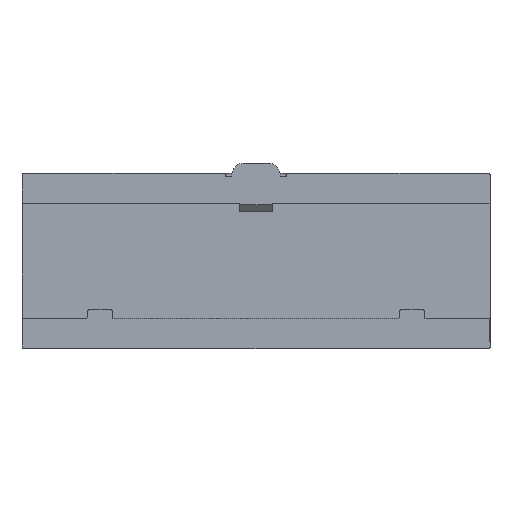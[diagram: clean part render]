
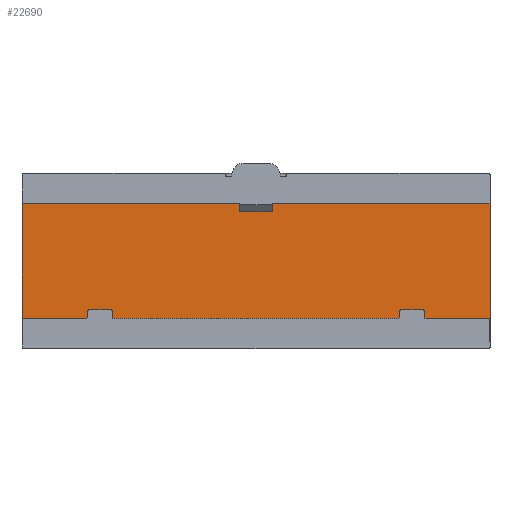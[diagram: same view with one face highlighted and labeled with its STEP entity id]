
A CAD part, front view. The second image highlights one B-rep face of the part: STEP entity #22690.
In plain terms, the highlighted planar face has unit normal (0, -1, 0).
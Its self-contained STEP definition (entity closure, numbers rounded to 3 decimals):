
#696 = CARTESIAN_POINT ( 'NONE',  ( -72., -9., 27. ) ) ;
#2018 = LINE ( 'NONE', #12611, #24354 ) ;
#2203 = CARTESIAN_POINT ( 'NONE',  ( 72., -9., 27. ) ) ;
#2617 = EDGE_CURVE ( 'NONE', #35588, #35563, #11835, .T. ) ;
#2923 = EDGE_LOOP ( 'NONE', ( #5187, #8691, #12657, #4989 ) ) ;
#3581 = VERTEX_POINT ( 'NONE', #11668 ) ;
#4571 = LINE ( 'NONE', #2203, #4933 ) ;
#4574 = DIRECTION ( 'NONE',  ( 1., 0., 0. ) ) ;
#4741 = DIRECTION ( 'NONE',  ( 0., 0., 1. ) ) ;
#4933 = VECTOR ( 'NONE', #4741, 1000. ) ;
#4989 = ORIENTED_EDGE ( 'NONE', *, *, #18083, .T. ) ;
#5046 = VECTOR ( 'NONE', #15298, 1000. ) ;
#5187 = ORIENTED_EDGE ( 'NONE', *, *, #9258, .T. ) ;
#6713 = CARTESIAN_POINT ( 'NONE',  ( -77., -9., 17.68 ) ) ;
#7540 = CARTESIAN_POINT ( 'NONE',  ( -72., -9., -17.68 ) ) ;
#8691 = ORIENTED_EDGE ( 'NONE', *, *, #33280, .T. ) ;
#9258 = EDGE_CURVE ( 'NONE', #31855, #3581, #4571, .T. ) ;
#11392 = PLANE ( 'NONE',  #17775 ) ;
#11668 = CARTESIAN_POINT ( 'NONE',  ( 72., -9., 17.68 ) ) ;
#11739 = DIRECTION ( 'NONE',  ( 0., 1., 0. ) ) ;
#11835 = LINE ( 'NONE', #696, #28459 ) ;
#12611 = CARTESIAN_POINT ( 'NONE',  ( -77., -9., -17.68 ) ) ;
#12657 = ORIENTED_EDGE ( 'NONE', *, *, #2617, .T. ) ;
#15298 = DIRECTION ( 'NONE',  ( -1., 0., 0. ) ) ;
#15303 = DIRECTION ( 'NONE',  ( 0., 0., -1. ) ) ;
#17775 = AXIS2_PLACEMENT_3D ( 'NONE', #28176, #11739, #22529 ) ;
#18083 = EDGE_CURVE ( 'NONE', #35563, #31855, #2018, .T. ) ;
#22529 = DIRECTION ( 'NONE',  ( 0., 0., 1. ) ) ;
#22690 = ADVANCED_FACE ( 'NONE', ( #28541 ), #11392, .F. ) ;
#24354 = VECTOR ( 'NONE', #4574, 1000. ) ;
#25396 = LINE ( 'NONE', #6713, #5046 ) ;
#28176 = CARTESIAN_POINT ( 'NONE',  ( 0., -9., 0. ) ) ;
#28459 = VECTOR ( 'NONE', #15303, 1000. ) ;
#28541 = FACE_OUTER_BOUND ( 'NONE', #2923, .T. ) ;
#30099 = CARTESIAN_POINT ( 'NONE',  ( 72., -9., -17.68 ) ) ;
#30459 = CARTESIAN_POINT ( 'NONE',  ( -72., -9., 17.68 ) ) ;
#31855 = VERTEX_POINT ( 'NONE', #30099 ) ;
#33280 = EDGE_CURVE ( 'NONE', #3581, #35588, #25396, .T. ) ;
#35563 = VERTEX_POINT ( 'NONE', #7540 ) ;
#35588 = VERTEX_POINT ( 'NONE', #30459 ) ;
